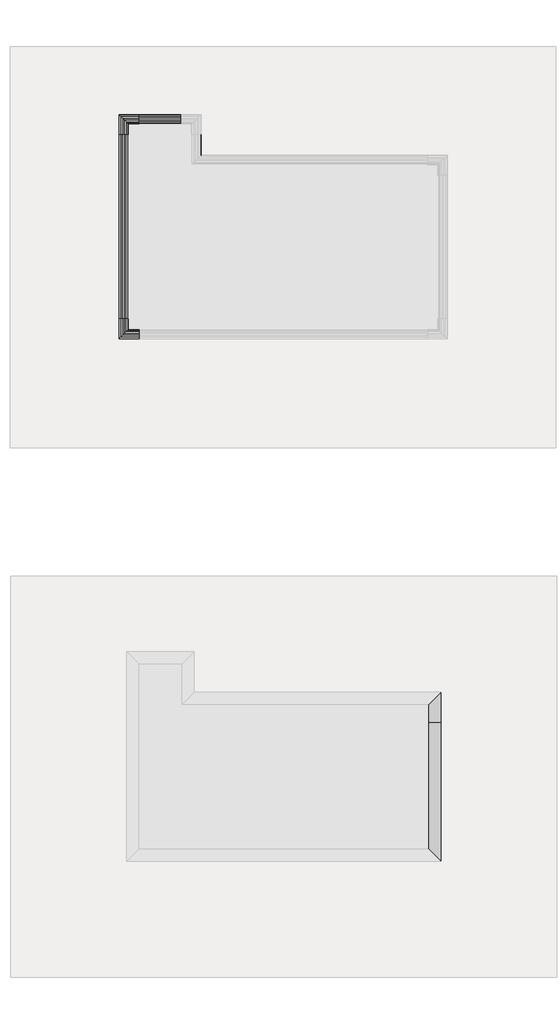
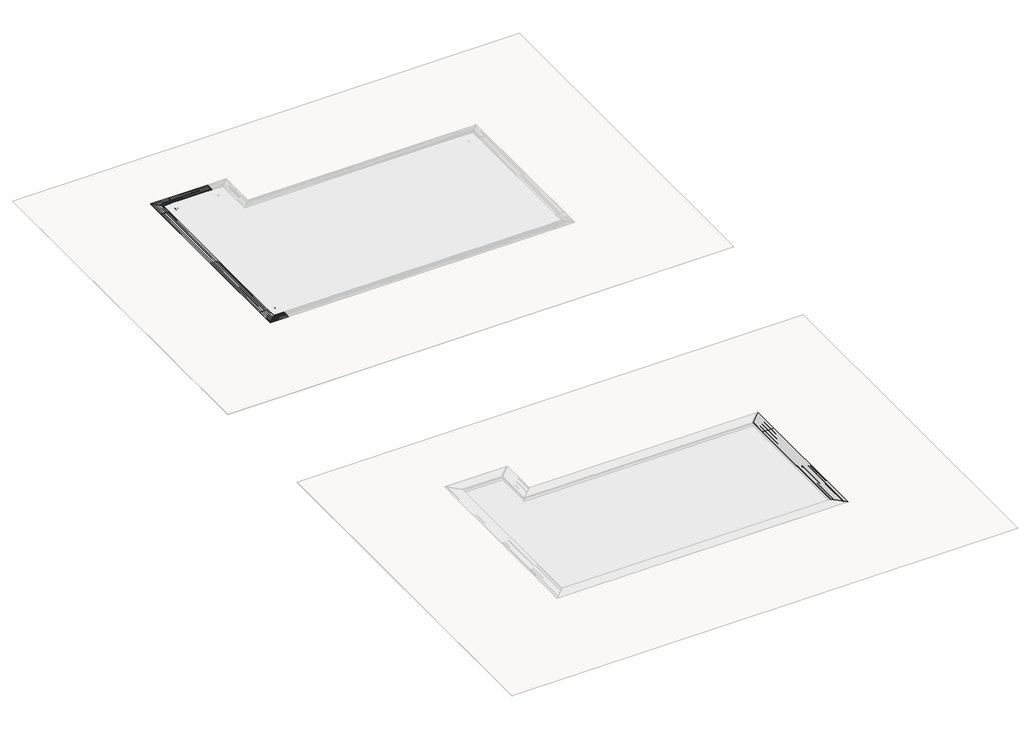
# One storey, part 6 of 8: 21 proxies.
"""IFC4 building model written with IfcOpenShell, lengths in millimetres."""

from ifc_helpers import new_model, si_unit, point, frame, frame_2d, origin, place, context, project, spatial, polyline, circle_curve, trimmed, segment, composite_curve, outline, extrude, faceted_brep, transform, mapped, element, save
from components import roca_polar_33x3cm_006be5aa, roca_polar_33x4cm_fa50347c, roca_polar_33x4cm_158b5dbd, roca_polar_33x4cm_f0a25715, roca_polar_33x4cm_b073b66c, roca_polar_4x4cm_b0f7cce5, roca_polar_angulo_33x33cm_rejilla_24_5x33cm_6b5bcf94

model = new_model("IFC4")

# Units and contexts
model_context = context("Model", 3, world=origin())
ifc_project = project(units=[si_unit("LENGTHUNIT", "METRE", prefix="MILLI")], contexts=[model_context])

# Site, building, storey
site = spatial("IfcSite", under=ifc_project)
building = spatial("IfcBuilding", under=site)
storey = spatial("IfcBuildingStorey", under=building, Name="EXAGRES_Serie ROCA POLAR_Piscinas_ejemplo", Elevation=14000.0)

# Proxies
placement = place(None, origin())
element("IfcBuildingElementProxy", 1, Name="Wall Sweeps", at=placement, inside=storey, context=model_context, shape_type="SweptSolid", body=[
    extrude(outline(polyline([(13800.0, 12731.9202897), (13800.0, 12541.9202897), (14000.0, 12541.9202897), (14000.0, 12511.9202897), (13750.0, 12511.9202897), (13750.0, 12761.9202897), (14000.0, 12761.9202897), (14000.0, 12731.9202897), (13800.0, 12731.9202897)])), frame((0.0, -9603.9185886, 0.0), z_axis=(0.0, 1.0, 0.0), x_axis=(0.0, 0.0, 1.0)), (0.0, 0.0, 1.0), 5072.2),
])
element("IfcBuildingElementProxy", 2, Name="Wall Sweeps", at=placement, inside=storey, context=model_context, shape_type="SweptSolid", body=[
    extrude(outline(composite_curve([segment(polyline([(14015.0, 12561.9202897), (14015.0, 12566.9202897)]), True, "CONTINUOUS"), segment(trimmed(circle_curve(frame_2d((14000.0, 12566.9202897)), 15.0), [point((14015.0, 12566.9202897))], [point((14000.0, 12581.9202897))], True, "CARTESIAN"), True, "CONTINUOUS"), segment(polyline([(14000.0, 12581.9202897), (14000.0, 12641.9202897)]), True, "CONTINUOUS"), segment(trimmed(circle_curve(frame_2d((14000.0, 12656.9202897)), 15.0), [point((14000.0, 12641.9202897))], [point((14015.0, 12656.9202897))], True, "CARTESIAN"), True, "CONTINUOUS"), segment(polyline([(14015.0, 12656.9202897), (14015.0, 12661.9202897)]), True, "CONTINUOUS"), segment(trimmed(circle_curve(frame_2d((14000.0, 12661.9202897)), 15.0), [point((14015.0, 12661.9202897))], [point((14000.0, 12676.9202897))], True, "CARTESIAN"), True, "CONTINUOUS"), segment(polyline([(14000.0, 12676.9202897), (14000.0, 12737.4202897), (14011.0, 12737.4202897)]), True, "CONTINUOUS"), segment(trimmed(circle_curve(frame_2d((14011.0, 12741.1702897)), 3.75), [point((14011.0, 12737.4202897))], [point((14011.0, 12744.9202897))], True, "CARTESIAN"), True, "CONTINUOUS"), segment(polyline([(14011.0, 12744.9202897), (14000.0, 12744.9202897), (14000.0, 12756.9202897), (14015.0, 12756.9202897), (14030.0, 12750.4202897), (14030.0, 12710.9202897), (14019.0, 12711.9202897), (14019.0, 12716.9202897), (14011.0, 12716.9202897), (14011.0, 12696.9202897), (14019.0, 12696.9202897), (14019.0, 12701.9202897), (14030.0, 12702.9202897), (14030.0, 12663.4202897), (14025.0, 12663.4202897), (14025.0, 12655.4202897), (14030.0, 12655.4202897), (14030.0, 12615.9202897), (14019.0, 12616.9202897), (14019.0, 12621.9202897), (14011.0, 12621.9202897), (14011.0, 12601.9202897), (14019.0, 12601.9202897), (14019.0, 12606.9202897), (14030.0, 12607.9202897), (14030.0, 12568.4202897), (14025.0, 12568.4202897), (14025.0, 12560.4202897), (14030.0, 12560.4202897), (14030.0, 12520.9202897), (14019.0, 12520.9202897), (14019.0, 12539.4202897), (14011.0, 12539.4202897), (14011.0, 12516.9202897), (14000.0, 12516.9202897), (14000.0, 12546.9202897)]), True, "CONTINUOUS"), segment(trimmed(circle_curve(frame_2d((14000.0, 12561.9202897)), 15.0), [point((14000.0, 12546.9202897))], [point((14015.0, 12561.9202897))], True, "CARTESIAN"), True, "CONTINUOUS")], self_intersect=False)), frame((0.0, -9603.9185886, 0.0), z_axis=(0.0, 1.0, 0.0), x_axis=(0.0, 0.0, 1.0)), (0.0, 0.0, 1.0), 5072.2),
])
element("IfcBuildingElementProxy", 3, Name="Wall Sweeps", at=placement, inside=storey, context=model_context, shape_type="SweptSolid", body=[
    extrude(outline(polyline([(13546.2592037, 13011.9202897), (14000.0, 13011.9202897), (14000.0, 12761.9202897), (13750.0, 12761.9202897), (13750.0, 12511.9202897), (13644.7108891, 12511.9202897), (13546.2592037, 12811.9202897), (13546.2592037, 13011.9202897)])), frame((0.0, -9603.9185886, 0.0), z_axis=(0.0, 1.0, 0.0), x_axis=(0.0, 0.0, 1.0)), (0.0, 0.0, 1.0), 5072.2),
])
element("IfcBuildingElementProxy", 4, Name="Wall Sweeps", at=placement, inside=storey, context=model_context, shape_type="SweptSolid", body=[
    extrude(outline(polyline([(13800.0, 14551.9202897), (14000.0, 14551.9202897), (14000.0, 14521.9202897), (13750.0, 14521.9202897), (13750.0, 14771.9202897), (14000.0, 14771.9202897), (14000.0, 14741.9202897), (13800.0, 14741.9202897), (13800.0, 14551.9202897)])), frame((0.0, -5603.9185886, 0.0), z_axis=(0.0, 1.0, 0.0), x_axis=(0.0, 0.0, 1.0)), (0.0, 0.0, 1.0), 1072.1988872),
])
element("IfcBuildingElementProxy", 5, Name="Wall Sweeps", at=placement, inside=storey, context=model_context, shape_type="Brep", body=[
    faceted_brep([(14271.9202897, -5597.8185886, 13546.2592037), (14471.9202897, -5397.8185886, 13546.2592037), (14771.9202897, -5097.8185886, 13644.7108891), (14771.9202897, -5097.8185886, 13750.0), (14521.9202897, -5347.8185886, 13750.0), (14521.9202897, -5347.8185886, 14000.0), (14271.9202897, -5597.8185886, 14000.0), (14271.9202897, -4531.7197013, 13546.2592037), (14271.9202897, -4531.7197013, 14000.0), (14521.9202897, -4531.7197013, 14000.0), (14521.9202897, -4531.7197013, 13750.0), (14771.9202897, -4531.7197013, 13750.0), (14771.9202897, -4531.7197013, 13644.7108891), (14471.9202897, -4531.7197013, 13546.2592037), (14271.9202897, -5097.8185886, 14000.0), (14271.9202897, -5127.8185886, 14000.0), (14271.9202897, -5317.8185886, 14000.0), (14271.9202897, -5347.8185886, 14000.0)], [[[0, 1, 2, 3, 4, 5, 6]], [[7, 8, 9, 10, 11, 12, 13]], [[1, 0, 7, 13]], [[2, 1, 13, 12]], [[3, 2, 12, 11]], [[4, 3, 11, 10]], [[5, 4, 10, 9]], [[6, 5, 9, 8, 14, 15, 16, 17]], [[0, 6, 17, 16, 15, 14, 8, 7]]]),
])
element("IfcBuildingElementProxy", 6, Name="Wall Sweeps", at=placement, inside=storey, context=model_context, shape_type="SweptSolid", body=[
    extrude(outline(polyline([(-4197.8185886, 13800.0), (-4007.8185886, 13800.0), (-4007.8185886, 14000.0), (-3977.8185886, 14000.0), (-3977.8185886, 13750.0), (-4227.8185886, 13750.0), (-4227.8185886, 14000.0), (-4197.8185886, 14000.0), (-4197.8185886, 13800.0)])), frame((13065.8202897, 0.0, 0.0), z_axis=(1.0, 0.0, 0.0), x_axis=(0.0, 1.0, 0.0)), (0.0, 0.0, 1.0), 1152.2),
])
element("IfcBuildingElementProxy", 7, Name="Wall Sweeps", at=placement, inside=storey, context=model_context, shape_type="SweptSolid", body=[
    extrude(outline(composite_curve([segment(polyline([(-4027.8185886, 14015.0), (-4032.8185886, 14015.0)]), True, "CONTINUOUS"), segment(trimmed(circle_curve(frame_2d((-4032.8185886, 14000.0)), 15.0), [point((-4032.8185886, 14015.0))], [point((-4047.8185886, 14000.0))], True, "CARTESIAN"), True, "CONTINUOUS"), segment(polyline([(-4047.8185886, 14000.0), (-4107.8185886, 14000.0)]), True, "CONTINUOUS"), segment(trimmed(circle_curve(frame_2d((-4122.8185886, 14000.0)), 15.0), [point((-4107.8185886, 14000.0))], [point((-4122.8185886, 14015.0))], True, "CARTESIAN"), True, "CONTINUOUS"), segment(polyline([(-4122.8185886, 14015.0), (-4127.8185886, 14015.0)]), True, "CONTINUOUS"), segment(trimmed(circle_curve(frame_2d((-4127.8185886, 14000.0)), 15.0), [point((-4127.8185886, 14015.0))], [point((-4142.8185886, 14000.0))], True, "CARTESIAN"), True, "CONTINUOUS"), segment(polyline([(-4142.8185886, 14000.0), (-4203.3185886, 14000.0), (-4203.3185886, 14011.0)]), True, "CONTINUOUS"), segment(trimmed(circle_curve(frame_2d((-4207.0685886, 14011.0)), 3.75), [point((-4203.3185886, 14011.0))], [point((-4210.8185886, 14011.0))], True, "CARTESIAN"), True, "CONTINUOUS"), segment(polyline([(-4210.8185886, 14011.0), (-4210.8185886, 14000.0), (-4222.8185886, 14000.0), (-4222.8185886, 14015.0), (-4216.3185886, 14030.0), (-4176.8185886, 14030.0), (-4177.8185886, 14019.0), (-4182.8185886, 14019.0), (-4182.8185886, 14011.0), (-4162.8185886, 14011.0), (-4162.8185886, 14019.0), (-4167.8185886, 14019.0), (-4168.8185886, 14030.0), (-4129.3185886, 14030.0), (-4129.3185886, 14025.0), (-4121.3185886, 14025.0), (-4121.3185886, 14030.0), (-4081.8185886, 14030.0), (-4082.8185886, 14019.0), (-4087.8185886, 14019.0), (-4087.8185886, 14011.0), (-4067.8185886, 14011.0), (-4067.8185886, 14019.0), (-4072.8185886, 14019.0), (-4073.8185886, 14030.0), (-4034.3185886, 14030.0), (-4034.3185886, 14025.0), (-4026.3185886, 14025.0), (-4026.3185886, 14030.0), (-3986.8185886, 14030.0), (-3986.8185886, 14019.0), (-4005.3185886, 14019.0), (-4005.3185886, 14011.0), (-3982.8185886, 14011.0), (-3982.8185886, 14000.0), (-4012.8185886, 14000.0)]), True, "CONTINUOUS"), segment(trimmed(circle_curve(frame_2d((-4027.8185886, 14000.0)), 15.0), [point((-4012.8185886, 14000.0))], [point((-4027.8185886, 14015.0))], True, "CARTESIAN"), True, "CONTINUOUS")], self_intersect=False)), frame((13065.8202897, 0.0, 0.0), z_axis=(1.0, 0.0, 0.0), x_axis=(0.0, 1.0, 0.0)), (0.0, 0.0, 1.0), 1152.2),
])
element("IfcBuildingElementProxy", 8, Name="Wall Sweeps", at=placement, inside=storey, context=model_context, shape_type="SweptSolid", body=[
    extrude(outline(polyline([(-4477.8185886, 13546.2592037), (-4477.8185886, 14000.0), (-4227.8185886, 14000.0), (-4227.8185886, 13750.0), (-3977.8185886, 13750.0), (-3977.8185886, 13644.7108891), (-4277.8185886, 13546.2592037), (-4477.8185886, 13546.2592037)])), frame((13065.8202897, 0.0, 0.0), z_axis=(1.0, 0.0, 0.0), x_axis=(0.0, 1.0, 0.0)), (0.0, 0.0, 1.0), 1152.2),
])
element("IfcBuildingElementProxy", 9, Name="Wall Sweeps", at=placement, inside=storey, context=model_context, shape_type="Brep", body=[
    faceted_brep([(14579.9426749, -19916.0914606, 13818.74), (14484.9426749, -20011.0914606, 13818.74), (14274.9426749, -20221.0914606, 13818.74), (14274.9426749, -20221.0914606, 14000.0), (14274.9426749, -20221.0914606, 14018.74), (14579.9426749, -19916.0914606, 14018.74), (21379.9426749, -19916.0914606, 13818.74), (21379.9426749, -19916.0914606, 14018.74), (21074.9426749, -20221.0914606, 14018.74), (21074.9426749, -20221.0914606, 14000.0), (21074.9426749, -20221.0914606, 13818.74), (21284.9426749, -20011.0914606, 13818.74)], [[[0, 1, 2, 3, 4, 5]], [[6, 7, 8, 9, 10, 11]], [[4, 3, 2, 10, 9, 8]], [[2, 1, 0, 6, 11, 10]], [[5, 4, 8, 7]], [[0, 5, 7, 6]]]),
])
element("IfcBuildingElementProxy", 10, Name="Wall Sweeps", at=placement, inside=storey, context=model_context, shape_type="Brep", body=[
    faceted_brep([(21072.9426749, -20223.0914606, 14000.0), (21059.9426749, -20236.0914606, 14000.0), (21059.9426749, -20236.0914606, 14033.0), (21389.9426749, -19906.0914606, 14033.0), (21389.9426749, -19906.0914606, 14021.0), (21383.9426749, -19912.0914606, 14021.0), (21383.9426749, -19912.0914606, 14022.0), (21379.9426749, -19916.0914606, 14022.0), (21379.9426749, -19916.0914606, 14021.0), (21373.9426749, -19922.0914606, 14021.0), (21373.9426749, -19922.0914606, 14022.0), (21369.9426749, -19926.0914606, 14022.0), (21369.9426749, -19926.0914606, 14021.0), (21363.9426749, -19932.0914606, 14021.0), (21363.9426749, -19932.0914606, 14022.0), (21359.9426749, -19936.0914606, 14022.0), (21359.9426749, -19936.0914606, 14021.0), (21353.9426749, -19942.0914606, 14021.0), (21353.9426749, -19942.0914606, 14022.0), (21349.9426749, -19946.0914606, 14022.0), (21349.9426749, -19946.0914606, 14021.0), (21343.9426749, -19952.0914606, 14021.0), (21343.9426749, -19952.0914606, 14022.0), (21339.9426749, -19956.0914606, 14022.0), (21339.9426749, -19956.0914606, 14021.0), (21333.9426749, -19962.0914606, 14021.0), (21333.9426749, -19962.0914606, 14022.0), (21329.9426749, -19966.0914606, 14022.0), (21329.9426749, -19966.0914606, 14021.0), (21323.9426749, -19972.0914606, 14021.0), (21323.9426749, -19972.0914606, 14022.0), (21319.9426749, -19976.0914606, 14022.0), (21319.9426749, -19976.0914606, 14021.0), (21313.9426749, -19982.0914606, 14021.0), (21313.9426749, -19982.0914606, 14022.0), (21309.9426749, -19986.0914606, 14022.0), (21309.9426749, -19986.0914606, 14021.0), (21303.9426749, -19992.0914606, 14021.0), (21303.9426749, -19992.0914606, 14022.0), (21299.9426749, -19996.0914606, 14022.0), (21299.9426749, -19996.0914606, 14021.0), (21293.9426749, -20002.0914606, 14021.0), (21293.9426749, -20002.0914606, 14022.0), (21289.9426749, -20006.0914606, 14022.0), (21289.9426749, -20006.0914606, 14021.0), (21283.9426749, -20012.0914606, 14021.0), (21283.9426749, -20012.0914606, 14022.0), (21279.9426749, -20016.0914606, 14022.0), (21279.9426749, -20016.0914606, 14021.0), (21273.9426749, -20022.0914606, 14021.0), (21273.9426749, -20022.0914606, 14022.0), (21269.9426749, -20026.0914606, 14022.0), (21269.9426749, -20026.0914606, 14021.0), (21263.9426749, -20032.0914606, 14021.0), (21263.9426749, -20032.0914606, 14022.0), (21259.9426749, -20036.0914606, 14022.0), (21259.9426749, -20036.0914606, 14021.0), (21253.9426749, -20042.0914606, 14021.0), (21253.9426749, -20042.0914606, 14022.0), (21249.9426749, -20046.0914606, 14022.0), (21249.9426749, -20046.0914606, 14021.0), (21243.9426749, -20052.0914606, 14021.0), (21243.9426749, -20052.0914606, 14022.0), (21239.9426749, -20056.0914606, 14022.0), (21239.9426749, -20056.0914606, 14021.0), (21233.9426749, -20062.0914606, 14021.0), (21233.9426749, -20062.0914606, 14022.0), (21229.9426749, -20066.0914606, 14022.0), (21229.9426749, -20066.0914606, 14021.0), (21223.9426749, -20072.0914606, 14021.0), (21223.9426749, -20072.0914606, 14022.0), (21219.9426749, -20076.0914606, 14022.0), (21219.9426749, -20076.0914606, 14021.0), (21213.9426749, -20082.0914606, 14021.0), (21213.9426749, -20082.0914606, 14022.0), (21209.9426749, -20086.0914606, 14022.0), (21209.9426749, -20086.0914606, 14021.0), (21203.9426749, -20092.0914606, 14021.0), (21203.9426749, -20092.0914606, 14022.0), (21199.9426749, -20096.0914606, 14022.0), (21199.9426749, -20096.0914606, 14021.0), (21193.9426749, -20102.0914606, 14021.0), (21193.9426749, -20102.0914606, 14022.0), (21189.9426749, -20106.0914606, 14022.0), (21189.9426749, -20106.0914606, 14021.0), (21183.9426749, -20112.0914606, 14021.0), (21183.9426749, -20112.0914606, 14022.0), (21179.9426749, -20116.0914606, 14022.0), (21179.9426749, -20116.0914606, 14021.0), (21173.9426749, -20122.0914606, 14021.0), (21173.9426749, -20122.0914606, 14022.0), (21169.9426749, -20126.0914606, 14022.0), (21169.9426749, -20126.0914606, 14021.0), (21163.9426749, -20132.0914606, 14021.0), (21163.9426749, -20132.0914606, 14022.0), (21159.9426749, -20136.0914606, 14022.0), (21159.9426749, -20136.0914606, 14021.0), (21153.9426749, -20142.0914606, 14021.0), (21153.9426749, -20142.0914606, 14022.0), (21149.9426749, -20146.0914606, 14022.0), (21149.9426749, -20146.0914606, 14021.0), (21143.9426749, -20152.0914606, 14021.0), (21143.9426749, -20152.0914606, 14022.0), (21139.9426749, -20156.0914606, 14022.0), (21139.9426749, -20156.0914606, 14021.0), (21133.9426749, -20162.0914606, 14021.0), (21133.9426749, -20162.0914606, 14022.0), (21129.9426749, -20166.0914606, 14022.0), (21129.9426749, -20166.0914606, 14021.0), (21123.9426749, -20172.0914606, 14021.0), (21123.9426749, -20172.0914606, 14022.0), (21119.9426749, -20176.0914606, 14022.0), (21119.9426749, -20176.0914606, 14021.0), (21113.9426749, -20182.0914606, 14021.0), (21113.9426749, -20182.0914606, 14022.0), (21109.9426749, -20186.0914606, 14022.0), (21109.9426749, -20186.0914606, 14021.0), (21103.9426749, -20192.0914606, 14021.0), (21103.9426749, -20192.0914606, 14022.0), (21099.9426749, -20196.0914606, 14022.0), (21099.9426749, -20196.0914606, 14021.0), (21093.9426749, -20202.0914606, 14021.0), (21093.9426749, -20202.0914606, 14022.0), (21089.9426749, -20206.0914606, 14022.0), (21089.9426749, -20206.0914606, 14021.0), (21083.9426749, -20212.0914606, 14021.0), (21083.9426749, -20212.0914606, 14022.0), (21079.9426749, -20216.0914606, 14022.0), (21079.9426749, -20216.0914606, 14021.0), (21072.9426749, -20223.0914606, 14021.0), (21072.9426749, -20223.0914606, 14014.0), (21071.9426749, -20224.0914606, 14014.0), (21071.9426749, -20224.0914606, 14008.0), (21072.9426749, -20223.0914606, 14008.0), (21072.9426749, -20743.5914606, 14000.0), (21072.9426749, -20743.5914606, 14008.0), (21071.9426749, -20743.5914606, 14008.0), (21071.9426749, -20743.5914606, 14014.0), (21072.9426749, -20743.5914606, 14014.0), (21072.9426749, -20743.5914606, 14021.0), (21079.9426749, -20743.5914606, 14021.0), (21079.9426749, -20743.5914606, 14022.0), (21083.9426749, -20743.5914606, 14022.0), (21083.9426749, -20743.5914606, 14021.0), (21089.9426749, -20743.5914606, 14021.0), (21089.9426749, -20743.5914606, 14022.0), (21093.9426749, -20743.5914606, 14022.0), (21093.9426749, -20743.5914606, 14021.0), (21099.9426749, -20743.5914606, 14021.0), (21099.9426749, -20743.5914606, 14022.0), (21103.9426749, -20743.5914606, 14022.0), (21103.9426749, -20743.5914606, 14021.0), (21109.9426749, -20743.5914606, 14021.0), (21109.9426749, -20743.5914606, 14022.0), (21113.9426749, -20743.5914606, 14022.0), (21113.9426749, -20743.5914606, 14021.0), (21119.9426749, -20743.5914606, 14021.0), (21119.9426749, -20743.5914606, 14022.0), (21123.9426749, -20743.5914606, 14022.0), (21123.9426749, -20743.5914606, 14021.0), (21129.9426749, -20743.5914606, 14021.0), (21129.9426749, -20743.5914606, 14022.0), (21133.9426749, -20743.5914606, 14022.0), (21133.9426749, -20743.5914606, 14021.0), (21139.9426749, -20743.5914606, 14021.0), (21139.9426749, -20743.5914606, 14022.0), (21143.9426749, -20743.5914606, 14022.0), (21143.9426749, -20743.5914606, 14021.0), (21149.9426749, -20743.5914606, 14021.0), (21149.9426749, -20743.5914606, 14022.0), (21153.9426749, -20743.5914606, 14022.0), (21153.9426749, -20743.5914606, 14021.0), (21159.9426749, -20743.5914606, 14021.0), (21159.9426749, -20743.5914606, 14022.0), (21163.9426749, -20743.5914606, 14022.0), (21163.9426749, -20743.5914606, 14021.0), (21169.9426749, -20743.5914606, 14021.0), (21169.9426749, -20743.5914606, 14022.0), (21173.9426749, -20743.5914606, 14022.0), (21173.9426749, -20743.5914606, 14021.0), (21179.9426749, -20743.5914606, 14021.0), (21179.9426749, -20743.5914606, 14022.0), (21183.9426749, -20743.5914606, 14022.0), (21183.9426749, -20743.5914606, 14021.0), (21189.9426749, -20743.5914606, 14021.0), (21189.9426749, -20743.5914606, 14022.0), (21193.9426749, -20743.5914606, 14022.0), (21193.9426749, -20743.5914606, 14021.0), (21199.9426749, -20743.5914606, 14021.0), (21199.9426749, -20743.5914606, 14022.0), (21203.9426749, -20743.5914606, 14022.0), (21203.9426749, -20743.5914606, 14021.0), (21209.9426749, -20743.5914606, 14021.0), (21209.9426749, -20743.5914606, 14022.0), (21213.9426749, -20743.5914606, 14022.0), (21213.9426749, -20743.5914606, 14021.0), (21219.9426749, -20743.5914606, 14021.0), (21219.9426749, -20743.5914606, 14022.0), (21223.9426749, -20743.5914606, 14022.0), (21223.9426749, -20743.5914606, 14021.0), (21229.9426749, -20743.5914606, 14021.0), (21229.9426749, -20743.5914606, 14022.0), (21233.9426749, -20743.5914606, 14022.0), (21233.9426749, -20743.5914606, 14021.0), (21239.9426749, -20743.5914606, 14021.0), (21239.9426749, -20743.5914606, 14022.0), (21243.9426749, -20743.5914606, 14022.0), (21243.9426749, -20743.5914606, 14021.0), (21249.9426749, -20743.5914606, 14021.0), (21249.9426749, -20743.5914606, 14022.0), (21253.9426749, -20743.5914606, 14022.0), (21253.9426749, -20743.5914606, 14021.0), (21259.9426749, -20743.5914606, 14021.0), (21259.9426749, -20743.5914606, 14022.0), (21263.9426749, -20743.5914606, 14022.0), (21263.9426749, -20743.5914606, 14021.0), (21269.9426749, -20743.5914606, 14021.0), (21269.9426749, -20743.5914606, 14022.0), (21273.9426749, -20743.5914606, 14022.0), (21273.9426749, -20743.5914606, 14021.0), (21279.9426749, -20743.5914606, 14021.0), (21279.9426749, -20743.5914606, 14022.0), (21283.9426749, -20743.5914606, 14022.0), (21283.9426749, -20743.5914606, 14021.0), (21289.9426749, -20743.5914606, 14021.0), (21289.9426749, -20743.5914606, 14022.0), (21293.9426749, -20743.5914606, 14022.0), (21293.9426749, -20743.5914606, 14021.0), (21299.9426749, -20743.5914606, 14021.0), (21299.9426749, -20743.5914606, 14022.0), (21303.9426749, -20743.5914606, 14022.0), (21303.9426749, -20743.5914606, 14021.0), (21309.9426749, -20743.5914606, 14021.0), (21309.9426749, -20743.5914606, 14022.0), (21313.9426749, -20743.5914606, 14022.0), (21313.9426749, -20743.5914606, 14021.0), (21319.9426749, -20743.5914606, 14021.0), (21319.9426749, -20743.5914606, 14022.0), (21323.9426749, -20743.5914606, 14022.0), (21323.9426749, -20743.5914606, 14021.0), (21329.9426749, -20743.5914606, 14021.0), (21329.9426749, -20743.5914606, 14022.0), (21333.9426749, -20743.5914606, 14022.0), (21333.9426749, -20743.5914606, 14021.0), (21339.9426749, -20743.5914606, 14021.0), (21339.9426749, -20743.5914606, 14022.0), (21343.9426749, -20743.5914606, 14022.0), (21343.9426749, -20743.5914606, 14021.0), (21349.9426749, -20743.5914606, 14021.0), (21349.9426749, -20743.5914606, 14022.0), (21353.9426749, -20743.5914606, 14022.0), (21353.9426749, -20743.5914606, 14021.0), (21359.9426749, -20743.5914606, 14021.0), (21359.9426749, -20743.5914606, 14022.0), (21363.9426749, -20743.5914606, 14022.0), (21363.9426749, -20743.5914606, 14021.0), (21369.9426749, -20743.5914606, 14021.0), (21369.9426749, -20743.5914606, 14022.0), (21373.9426749, -20743.5914606, 14022.0), (21373.9426749, -20743.5914606, 14021.0), (21379.9426749, -20743.5914606, 14021.0), (21379.9426749, -20743.5914606, 14022.0), (21383.9426749, -20743.5914606, 14022.0), (21383.9426749, -20743.5914606, 14021.0), (21389.9426749, -20743.5914606, 14021.0), (21389.9426749, -20743.5914606, 14033.0), (21059.9426749, -20743.5914606, 14033.0), (21059.9426749, -20743.5914606, 14000.0)], [[[0, 1, 2, 3, 4, 5, 6, 7, 8, 9, 10, 11, 12, 13, 14, 15, 16, 17, 18, 19, 20, 21, 22, 23, 24, 25, 26, 27, 28, 29, 30, 31, 32, 33, 34, 35, 36, 37, 38, 39, 40, 41, 42, 43, 44, 45, 46, 47, 48, 49, 50, 51, 52, 53, 54, 55, 56, 57, 58, 59, 60, 61, 62, 63, 64, 65, 66, 67, 68, 69, 70, 71, 72, 73, 74, 75, 76, 77, 78, 79, 80, 81, 82, 83, 84, 85, 86, 87, 88, 89, 90, 91, 92, 93, 94, 95, 96, 97, 98, 99, 100, 101, 102, 103, 104, 105, 106, 107, 108, 109, 110, 111, 112, 113, 114, 115, 116, 117, 118, 119, 120, 121, 122, 123, 124, 125, 126, 127, 128, 129, 130, 131, 132, 133]], [[134, 135, 136, 137, 138, 139, 140, 141, 142, 143, 144, 145, 146, 147, 148, 149, 150, 151, 152, 153, 154, 155, 156, 157, 158, 159, 160, 161, 162, 163, 164, 165, 166, 167, 168, 169, 170, 171, 172, 173, 174, 175, 176, 177, 178, 179, 180, 181, 182, 183, 184, 185, 186, 187, 188, 189, 190, 191, 192, 193, 194, 195, 196, 197, 198, 199, 200, 201, 202, 203, 204, 205, 206, 207, 208, 209, 210, 211, 212, 213, 214, 215, 216, 217, 218, 219, 220, 221, 222, 223, 224, 225, 226, 227, 228, 229, 230, 231, 232, 233, 234, 235, 236, 237, 238, 239, 240, 241, 242, 243, 244, 245, 246, 247, 248, 249, 250, 251, 252, 253, 254, 255, 256, 257, 258, 259, 260, 261, 262, 263, 264, 265, 266, 267]], [[1, 0, 134, 267]], [[2, 1, 267, 266]], [[3, 2, 266, 265]], [[4, 3, 265, 264]], [[5, 4, 264, 263]], [[6, 5, 263, 262]], [[7, 6, 262, 261]], [[8, 7, 261, 260]], [[9, 8, 260, 259]], [[10, 9, 259, 258]], [[11, 10, 258, 257]], [[12, 11, 257, 256]], [[13, 12, 256, 255]], [[14, 13, 255, 254]], [[15, 14, 254, 253]], [[16, 15, 253, 252]], [[17, 16, 252, 251]], [[18, 17, 251, 250]], [[19, 18, 250, 249]], [[20, 19, 249, 248]], [[21, 20, 248, 247]], [[22, 21, 247, 246]], [[23, 22, 246, 245]], [[24, 23, 245, 244]], [[25, 24, 244, 243]], [[26, 25, 243, 242]], [[27, 26, 242, 241]], [[28, 27, 241, 240]], [[29, 28, 240, 239]], [[30, 29, 239, 238]], [[31, 30, 238, 237]], [[32, 31, 237, 236]], [[33, 32, 236, 235]], [[34, 33, 235, 234]], [[35, 34, 234, 233]], [[36, 35, 233, 232]], [[37, 36, 232, 231]], [[38, 37, 231, 230]], [[39, 38, 230, 229]], [[40, 39, 229, 228]], [[41, 40, 228, 227]], [[42, 41, 227, 226]], [[43, 42, 226, 225]], [[44, 43, 225, 224]], [[45, 44, 224, 223]], [[46, 45, 223, 222]], [[47, 46, 222, 221]], [[48, 47, 221, 220]], [[49, 48, 220, 219]], [[50, 49, 219, 218]], [[51, 50, 218, 217]], [[52, 51, 217, 216]], [[53, 52, 216, 215]], [[54, 53, 215, 214]], [[55, 54, 214, 213]], [[56, 55, 213, 212]], [[57, 56, 212, 211]], [[58, 57, 211, 210]], [[59, 58, 210, 209]], [[60, 59, 209, 208]], [[61, 60, 208, 207]], [[62, 61, 207, 206]], [[63, 62, 206, 205]], [[64, 63, 205, 204]], [[65, 64, 204, 203]], [[66, 65, 203, 202]], [[67, 66, 202, 201]], [[68, 67, 201, 200]], [[69, 68, 200, 199]], [[70, 69, 199, 198]], [[71, 70, 198, 197]], [[72, 71, 197, 196]], [[73, 72, 196, 195]], [[74, 73, 195, 194]], [[75, 74, 194, 193]], [[76, 75, 193, 192]], [[77, 76, 192, 191]], [[78, 77, 191, 190]], [[79, 78, 190, 189]], [[80, 79, 189, 188]], [[81, 80, 188, 187]], [[82, 81, 187, 186]], [[83, 82, 186, 185]], [[84, 83, 185, 184]], [[85, 84, 184, 183]], [[86, 85, 183, 182]], [[87, 86, 182, 181]], [[88, 87, 181, 180]], [[89, 88, 180, 179]], [[90, 89, 179, 178]], [[91, 90, 178, 177]], [[92, 91, 177, 176]], [[93, 92, 176, 175]], [[94, 93, 175, 174]], [[95, 94, 174, 173]], [[96, 95, 173, 172]], [[97, 96, 172, 171]], [[98, 97, 171, 170]], [[99, 98, 170, 169]], [[100, 99, 169, 168]], [[101, 100, 168, 167]], [[102, 101, 167, 166]], [[103, 102, 166, 165]], [[104, 103, 165, 164]], [[105, 104, 164, 163]], [[106, 105, 163, 162]], [[107, 106, 162, 161]], [[108, 107, 161, 160]], [[109, 108, 160, 159]], [[110, 109, 159, 158]], [[111, 110, 158, 157]], [[112, 111, 157, 156]], [[113, 112, 156, 155]], [[114, 113, 155, 154]], [[115, 114, 154, 153]], [[116, 115, 153, 152]], [[117, 116, 152, 151]], [[118, 117, 151, 150]], [[119, 118, 150, 149]], [[120, 119, 149, 148]], [[121, 120, 148, 147]], [[122, 121, 147, 146]], [[123, 122, 146, 145]], [[124, 123, 145, 144]], [[125, 124, 144, 143]], [[126, 125, 143, 142]], [[127, 126, 142, 141]], [[128, 127, 141, 140]], [[129, 128, 140, 139]], [[130, 129, 139, 138]], [[131, 130, 138, 137]], [[132, 131, 137, 136]], [[133, 132, 136, 135]], [[0, 133, 135, 134]]]),
])
element("IfcBuildingElementProxy", 11, Name="Wall Sweeps", at=placement, inside=storey, context=model_context, shape_type="Brep", body=[
    faceted_brep([(21379.9426749, -19916.0914606, 13818.74), (21284.9426749, -20011.0914606, 13818.74), (21074.9426749, -20221.0914606, 13818.74), (21074.9426749, -20221.0914606, 14000.0), (21074.9426749, -20221.0914606, 14018.74), (21379.9426749, -19916.0914606, 14018.74), (21379.9426749, -20743.5914606, 13818.74), (21379.9426749, -20743.5914606, 14018.74), (21074.9426749, -20743.5914606, 14018.74), (21074.9426749, -20743.5914606, 14000.0), (21074.9426749, -20743.5914606, 13818.74), (21284.9426749, -20743.5914606, 13818.74)], [[[0, 1, 2, 3, 4, 5]], [[6, 7, 8, 9, 10, 11]], [[4, 3, 2, 10, 9, 8]], [[2, 1, 0, 6, 11, 10]], [[5, 4, 8, 7]], [[0, 5, 7, 6]]]),
])
element("IfcBuildingElementProxy", 12, Name="Wall Sweeps", at=placement, inside=storey, context=model_context, shape_type="Brep", body=[
    faceted_brep([(21072.9426749, -20743.5914606, 14000.0), (21059.9426749, -20743.5914606, 14000.0), (21059.9426749, -20743.5914606, 14033.0), (21389.9426749, -20743.5914606, 14033.0), (21389.9426749, -20743.5914606, 14021.0), (21383.9426749, -20743.5914606, 14021.0), (21383.9426749, -20743.5914606, 14022.0), (21379.9426749, -20743.5914606, 14022.0), (21379.9426749, -20743.5914606, 14021.0), (21373.9426749, -20743.5914606, 14021.0), (21373.9426749, -20743.5914606, 14022.0), (21369.9426749, -20743.5914606, 14022.0), (21369.9426749, -20743.5914606, 14021.0), (21363.9426749, -20743.5914606, 14021.0), (21363.9426749, -20743.5914606, 14022.0), (21359.9426749, -20743.5914606, 14022.0), (21359.9426749, -20743.5914606, 14021.0), (21353.9426749, -20743.5914606, 14021.0), (21353.9426749, -20743.5914606, 14022.0), (21349.9426749, -20743.5914606, 14022.0), (21349.9426749, -20743.5914606, 14021.0), (21343.9426749, -20743.5914606, 14021.0), (21343.9426749, -20743.5914606, 14022.0), (21339.9426749, -20743.5914606, 14022.0), (21339.9426749, -20743.5914606, 14021.0), (21333.9426749, -20743.5914606, 14021.0), (21333.9426749, -20743.5914606, 14022.0), (21329.9426749, -20743.5914606, 14022.0), (21329.9426749, -20743.5914606, 14021.0), (21323.9426749, -20743.5914606, 14021.0), (21323.9426749, -20743.5914606, 14022.0), (21319.9426749, -20743.5914606, 14022.0), (21319.9426749, -20743.5914606, 14021.0), (21313.9426749, -20743.5914606, 14021.0), (21313.9426749, -20743.5914606, 14022.0), (21309.9426749, -20743.5914606, 14022.0), (21309.9426749, -20743.5914606, 14021.0), (21303.9426749, -20743.5914606, 14021.0), (21303.9426749, -20743.5914606, 14022.0), (21299.9426749, -20743.5914606, 14022.0), (21299.9426749, -20743.5914606, 14021.0), (21293.9426749, -20743.5914606, 14021.0), (21293.9426749, -20743.5914606, 14022.0), (21289.9426749, -20743.5914606, 14022.0), (21289.9426749, -20743.5914606, 14021.0), (21283.9426749, -20743.5914606, 14021.0), (21283.9426749, -20743.5914606, 14022.0), (21279.9426749, -20743.5914606, 14022.0), (21279.9426749, -20743.5914606, 14021.0), (21273.9426749, -20743.5914606, 14021.0), (21273.9426749, -20743.5914606, 14022.0), (21269.9426749, -20743.5914606, 14022.0), (21269.9426749, -20743.5914606, 14021.0), (21263.9426749, -20743.5914606, 14021.0), (21263.9426749, -20743.5914606, 14022.0), (21259.9426749, -20743.5914606, 14022.0), (21259.9426749, -20743.5914606, 14021.0), (21253.9426749, -20743.5914606, 14021.0), (21253.9426749, -20743.5914606, 14022.0), (21249.9426749, -20743.5914606, 14022.0), (21249.9426749, -20743.5914606, 14021.0), (21243.9426749, -20743.5914606, 14021.0), (21243.9426749, -20743.5914606, 14022.0), (21239.9426749, -20743.5914606, 14022.0), (21239.9426749, -20743.5914606, 14021.0), (21233.9426749, -20743.5914606, 14021.0), (21233.9426749, -20743.5914606, 14022.0), (21229.9426749, -20743.5914606, 14022.0), (21229.9426749, -20743.5914606, 14021.0), (21223.9426749, -20743.5914606, 14021.0), (21223.9426749, -20743.5914606, 14022.0), (21219.9426749, -20743.5914606, 14022.0), (21219.9426749, -20743.5914606, 14021.0), (21213.9426749, -20743.5914606, 14021.0), (21213.9426749, -20743.5914606, 14022.0), (21209.9426749, -20743.5914606, 14022.0), (21209.9426749, -20743.5914606, 14021.0), (21203.9426749, -20743.5914606, 14021.0), (21203.9426749, -20743.5914606, 14022.0), (21199.9426749, -20743.5914606, 14022.0), (21199.9426749, -20743.5914606, 14021.0), (21193.9426749, -20743.5914606, 14021.0), (21193.9426749, -20743.5914606, 14022.0), (21189.9426749, -20743.5914606, 14022.0), (21189.9426749, -20743.5914606, 14021.0), (21183.9426749, -20743.5914606, 14021.0), (21183.9426749, -20743.5914606, 14022.0), (21179.9426749, -20743.5914606, 14022.0), (21179.9426749, -20743.5914606, 14021.0), (21173.9426749, -20743.5914606, 14021.0), (21173.9426749, -20743.5914606, 14022.0), (21169.9426749, -20743.5914606, 14022.0), (21169.9426749, -20743.5914606, 14021.0), (21163.9426749, -20743.5914606, 14021.0), (21163.9426749, -20743.5914606, 14022.0), (21159.9426749, -20743.5914606, 14022.0), (21159.9426749, -20743.5914606, 14021.0), (21153.9426749, -20743.5914606, 14021.0), (21153.9426749, -20743.5914606, 14022.0), (21149.9426749, -20743.5914606, 14022.0), (21149.9426749, -20743.5914606, 14021.0), (21143.9426749, -20743.5914606, 14021.0), (21143.9426749, -20743.5914606, 14022.0), (21139.9426749, -20743.5914606, 14022.0), (21139.9426749, -20743.5914606, 14021.0), (21133.9426749, -20743.5914606, 14021.0), (21133.9426749, -20743.5914606, 14022.0), (21129.9426749, -20743.5914606, 14022.0), (21129.9426749, -20743.5914606, 14021.0), (21123.9426749, -20743.5914606, 14021.0), (21123.9426749, -20743.5914606, 14022.0), (21119.9426749, -20743.5914606, 14022.0), (21119.9426749, -20743.5914606, 14021.0), (21113.9426749, -20743.5914606, 14021.0), (21113.9426749, -20743.5914606, 14022.0), (21109.9426749, -20743.5914606, 14022.0), (21109.9426749, -20743.5914606, 14021.0), (21103.9426749, -20743.5914606, 14021.0), (21103.9426749, -20743.5914606, 14022.0), (21099.9426749, -20743.5914606, 14022.0), (21099.9426749, -20743.5914606, 14021.0), (21093.9426749, -20743.5914606, 14021.0), (21093.9426749, -20743.5914606, 14022.0), (21089.9426749, -20743.5914606, 14022.0), (21089.9426749, -20743.5914606, 14021.0), (21083.9426749, -20743.5914606, 14021.0), (21083.9426749, -20743.5914606, 14022.0), (21079.9426749, -20743.5914606, 14022.0), (21079.9426749, -20743.5914606, 14021.0), (21072.9426749, -20743.5914606, 14021.0), (21072.9426749, -20743.5914606, 14014.0), (21071.9426749, -20743.5914606, 14014.0), (21071.9426749, -20743.5914606, 14008.0), (21072.9426749, -20743.5914606, 14008.0), (21072.9426749, -24249.0914606, 14000.0), (21072.9426749, -24249.0914606, 14008.0), (21071.9426749, -24248.0914606, 14008.0), (21071.9426749, -24248.0914606, 14014.0), (21072.9426749, -24249.0914606, 14014.0), (21072.9426749, -24249.0914606, 14021.0), (21079.9426749, -24256.0914606, 14021.0), (21079.9426749, -24256.0914606, 14022.0), (21083.9426749, -24260.0914606, 14022.0), (21083.9426749, -24260.0914606, 14021.0), (21089.9426749, -24266.0914606, 14021.0), (21089.9426749, -24266.0914606, 14022.0), (21093.9426749, -24270.0914606, 14022.0), (21093.9426749, -24270.0914606, 14021.0), (21099.9426749, -24276.0914606, 14021.0), (21099.9426749, -24276.0914606, 14022.0), (21103.9426749, -24280.0914606, 14022.0), (21103.9426749, -24280.0914606, 14021.0), (21109.9426749, -24286.0914606, 14021.0), (21109.9426749, -24286.0914606, 14022.0), (21113.9426749, -24290.0914606, 14022.0), (21113.9426749, -24290.0914606, 14021.0), (21119.9426749, -24296.0914606, 14021.0), (21119.9426749, -24296.0914606, 14022.0), (21123.9426749, -24300.0914606, 14022.0), (21123.9426749, -24300.0914606, 14021.0), (21129.9426749, -24306.0914606, 14021.0), (21129.9426749, -24306.0914606, 14022.0), (21133.9426749, -24310.0914606, 14022.0), (21133.9426749, -24310.0914606, 14021.0), (21139.9426749, -24316.0914606, 14021.0), (21139.9426749, -24316.0914606, 14022.0), (21143.9426749, -24320.0914606, 14022.0), (21143.9426749, -24320.0914606, 14021.0), (21149.9426749, -24326.0914606, 14021.0), (21149.9426749, -24326.0914606, 14022.0), (21153.9426749, -24330.0914606, 14022.0), (21153.9426749, -24330.0914606, 14021.0), (21159.9426749, -24336.0914606, 14021.0), (21159.9426749, -24336.0914606, 14022.0), (21163.9426749, -24340.0914606, 14022.0), (21163.9426749, -24340.0914606, 14021.0), (21169.9426749, -24346.0914606, 14021.0), (21169.9426749, -24346.0914606, 14022.0), (21173.9426749, -24350.0914606, 14022.0), (21173.9426749, -24350.0914606, 14021.0), (21179.9426749, -24356.0914606, 14021.0), (21179.9426749, -24356.0914606, 14022.0), (21183.9426749, -24360.0914606, 14022.0), (21183.9426749, -24360.0914606, 14021.0), (21189.9426749, -24366.0914606, 14021.0), (21189.9426749, -24366.0914606, 14022.0), (21193.9426749, -24370.0914606, 14022.0), (21193.9426749, -24370.0914606, 14021.0), (21199.9426749, -24376.0914606, 14021.0), (21199.9426749, -24376.0914606, 14022.0), (21203.9426749, -24380.0914606, 14022.0), (21203.9426749, -24380.0914606, 14021.0), (21209.9426749, -24386.0914606, 14021.0), (21209.9426749, -24386.0914606, 14022.0), (21213.9426749, -24390.0914606, 14022.0), (21213.9426749, -24390.0914606, 14021.0), (21219.9426749, -24396.0914606, 14021.0), (21219.9426749, -24396.0914606, 14022.0), (21223.9426749, -24400.0914606, 14022.0), (21223.9426749, -24400.0914606, 14021.0), (21229.9426749, -24406.0914606, 14021.0), (21229.9426749, -24406.0914606, 14022.0), (21233.9426749, -24410.0914606, 14022.0), (21233.9426749, -24410.0914606, 14021.0), (21239.9426749, -24416.0914606, 14021.0), (21239.9426749, -24416.0914606, 14022.0), (21243.9426749, -24420.0914606, 14022.0), (21243.9426749, -24420.0914606, 14021.0), (21249.9426749, -24426.0914606, 14021.0), (21249.9426749, -24426.0914606, 14022.0), (21253.9426749, -24430.0914606, 14022.0), (21253.9426749, -24430.0914606, 14021.0), (21259.9426749, -24436.0914606, 14021.0), (21259.9426749, -24436.0914606, 14022.0), (21263.9426749, -24440.0914606, 14022.0), (21263.9426749, -24440.0914606, 14021.0), (21269.9426749, -24446.0914606, 14021.0), (21269.9426749, -24446.0914606, 14022.0), (21273.9426749, -24450.0914606, 14022.0), (21273.9426749, -24450.0914606, 14021.0), (21279.9426749, -24456.0914606, 14021.0), (21279.9426749, -24456.0914606, 14022.0), (21283.9426749, -24460.0914606, 14022.0), (21283.9426749, -24460.0914606, 14021.0), (21289.9426749, -24466.0914606, 14021.0), (21289.9426749, -24466.0914606, 14022.0), (21293.9426749, -24470.0914606, 14022.0), (21293.9426749, -24470.0914606, 14021.0), (21299.9426749, -24476.0914606, 14021.0), (21299.9426749, -24476.0914606, 14022.0), (21303.9426749, -24480.0914606, 14022.0), (21303.9426749, -24480.0914606, 14021.0), (21309.9426749, -24486.0914606, 14021.0), (21309.9426749, -24486.0914606, 14022.0), (21313.9426749, -24490.0914606, 14022.0), (21313.9426749, -24490.0914606, 14021.0), (21319.9426749, -24496.0914606, 14021.0), (21319.9426749, -24496.0914606, 14022.0), (21323.9426749, -24500.0914606, 14022.0), (21323.9426749, -24500.0914606, 14021.0), (21329.9426749, -24506.0914606, 14021.0), (21329.9426749, -24506.0914606, 14022.0), (21333.9426749, -24510.0914606, 14022.0), (21333.9426749, -24510.0914606, 14021.0), (21339.9426749, -24516.0914606, 14021.0), (21339.9426749, -24516.0914606, 14022.0), (21343.9426749, -24520.0914606, 14022.0), (21343.9426749, -24520.0914606, 14021.0), (21349.9426749, -24526.0914606, 14021.0), (21349.9426749, -24526.0914606, 14022.0), (21353.9426749, -24530.0914606, 14022.0), (21353.9426749, -24530.0914606, 14021.0), (21359.9426749, -24536.0914606, 14021.0), (21359.9426749, -24536.0914606, 14022.0), (21363.9426749, -24540.0914606, 14022.0), (21363.9426749, -24540.0914606, 14021.0), (21369.9426749, -24546.0914606, 14021.0), (21369.9426749, -24546.0914606, 14022.0), (21373.9426749, -24550.0914606, 14022.0), (21373.9426749, -24550.0914606, 14021.0), (21379.9426749, -24556.0914606, 14021.0), (21379.9426749, -24556.0914606, 14022.0), (21383.9426749, -24560.0914606, 14022.0), (21383.9426749, -24560.0914606, 14021.0), (21389.9426749, -24566.0914606, 14021.0), (21389.9426749, -24566.0914606, 14033.0), (21059.9426749, -24236.0914606, 14033.0), (21059.9426749, -24236.0914606, 14000.0)], [[[0, 1, 2, 3, 4, 5, 6, 7, 8, 9, 10, 11, 12, 13, 14, 15, 16, 17, 18, 19, 20, 21, 22, 23, 24, 25, 26, 27, 28, 29, 30, 31, 32, 33, 34, 35, 36, 37, 38, 39, 40, 41, 42, 43, 44, 45, 46, 47, 48, 49, 50, 51, 52, 53, 54, 55, 56, 57, 58, 59, 60, 61, 62, 63, 64, 65, 66, 67, 68, 69, 70, 71, 72, 73, 74, 75, 76, 77, 78, 79, 80, 81, 82, 83, 84, 85, 86, 87, 88, 89, 90, 91, 92, 93, 94, 95, 96, 97, 98, 99, 100, 101, 102, 103, 104, 105, 106, 107, 108, 109, 110, 111, 112, 113, 114, 115, 116, 117, 118, 119, 120, 121, 122, 123, 124, 125, 126, 127, 128, 129, 130, 131, 132, 133]], [[134, 135, 136, 137, 138, 139, 140, 141, 142, 143, 144, 145, 146, 147, 148, 149, 150, 151, 152, 153, 154, 155, 156, 157, 158, 159, 160, 161, 162, 163, 164, 165, 166, 167, 168, 169, 170, 171, 172, 173, 174, 175, 176, 177, 178, 179, 180, 181, 182, 183, 184, 185, 186, 187, 188, 189, 190, 191, 192, 193, 194, 195, 196, 197, 198, 199, 200, 201, 202, 203, 204, 205, 206, 207, 208, 209, 210, 211, 212, 213, 214, 215, 216, 217, 218, 219, 220, 221, 222, 223, 224, 225, 226, 227, 228, 229, 230, 231, 232, 233, 234, 235, 236, 237, 238, 239, 240, 241, 242, 243, 244, 245, 246, 247, 248, 249, 250, 251, 252, 253, 254, 255, 256, 257, 258, 259, 260, 261, 262, 263, 264, 265, 266, 267]], [[1, 0, 134, 267]], [[2, 1, 267, 266]], [[3, 2, 266, 265]], [[4, 3, 265, 264]], [[5, 4, 264, 263]], [[6, 5, 263, 262]], [[7, 6, 262, 261]], [[8, 7, 261, 260]], [[9, 8, 260, 259]], [[10, 9, 259, 258]], [[11, 10, 258, 257]], [[12, 11, 257, 256]], [[13, 12, 256, 255]], [[14, 13, 255, 254]], [[15, 14, 254, 253]], [[16, 15, 253, 252]], [[17, 16, 252, 251]], [[18, 17, 251, 250]], [[19, 18, 250, 249]], [[20, 19, 249, 248]], [[21, 20, 248, 247]], [[22, 21, 247, 246]], [[23, 22, 246, 245]], [[24, 23, 245, 244]], [[25, 24, 244, 243]], [[26, 25, 243, 242]], [[27, 26, 242, 241]], [[28, 27, 241, 240]], [[29, 28, 240, 239]], [[30, 29, 239, 238]], [[31, 30, 238, 237]], [[32, 31, 237, 236]], [[33, 32, 236, 235]], [[34, 33, 235, 234]], [[35, 34, 234, 233]], [[36, 35, 233, 232]], [[37, 36, 232, 231]], [[38, 37, 231, 230]], [[39, 38, 230, 229]], [[40, 39, 229, 228]], [[41, 40, 228, 227]], [[42, 41, 227, 226]], [[43, 42, 226, 225]], [[44, 43, 225, 224]], [[45, 44, 224, 223]], [[46, 45, 223, 222]], [[47, 46, 222, 221]], [[48, 47, 221, 220]], [[49, 48, 220, 219]], [[50, 49, 219, 218]], [[51, 50, 218, 217]], [[52, 51, 217, 216]], [[53, 52, 216, 215]], [[54, 53, 215, 214]], [[55, 54, 214, 213]], [[56, 55, 213, 212]], [[57, 56, 212, 211]], [[58, 57, 211, 210]], [[59, 58, 210, 209]], [[60, 59, 209, 208]], [[61, 60, 208, 207]], [[62, 61, 207, 206]], [[63, 62, 206, 205]], [[64, 63, 205, 204]], [[65, 64, 204, 203]], [[66, 65, 203, 202]], [[67, 66, 202, 201]], [[68, 67, 201, 200]], [[69, 68, 200, 199]], [[70, 69, 199, 198]], [[71, 70, 198, 197]], [[72, 71, 197, 196]], [[73, 72, 196, 195]], [[74, 73, 195, 194]], [[75, 74, 194, 193]], [[76, 75, 193, 192]], [[77, 76, 192, 191]], [[78, 77, 191, 190]], [[79, 78, 190, 189]], [[80, 79, 189, 188]], [[81, 80, 188, 187]], [[82, 81, 187, 186]], [[83, 82, 186, 185]], [[84, 83, 185, 184]], [[85, 84, 184, 183]], [[86, 85, 183, 182]], [[87, 86, 182, 181]], [[88, 87, 181, 180]], [[89, 88, 180, 179]], [[90, 89, 179, 178]], [[91, 90, 178, 177]], [[92, 91, 177, 176]], [[93, 92, 176, 175]], [[94, 93, 175, 174]], [[95, 94, 174, 173]], [[96, 95, 173, 172]], [[97, 96, 172, 171]], [[98, 97, 171, 170]], [[99, 98, 170, 169]], [[100, 99, 169, 168]], [[101, 100, 168, 167]], [[102, 101, 167, 166]], [[103, 102, 166, 165]], [[104, 103, 165, 164]], [[105, 104, 164, 163]], [[106, 105, 163, 162]], [[107, 106, 162, 161]], [[108, 107, 161, 160]], [[109, 108, 160, 159]], [[110, 109, 159, 158]], [[111, 110, 158, 157]], [[112, 111, 157, 156]], [[113, 112, 156, 155]], [[114, 113, 155, 154]], [[115, 114, 154, 153]], [[116, 115, 153, 152]], [[117, 116, 152, 151]], [[118, 117, 151, 150]], [[119, 118, 150, 149]], [[120, 119, 149, 148]], [[121, 120, 148, 147]], [[122, 121, 147, 146]], [[123, 122, 146, 145]], [[124, 123, 145, 144]], [[125, 124, 144, 143]], [[126, 125, 143, 142]], [[127, 126, 142, 141]], [[128, 127, 141, 140]], [[129, 128, 140, 139]], [[130, 129, 139, 138]], [[131, 130, 138, 137]], [[132, 131, 137, 136]], [[133, 132, 136, 135]], [[0, 133, 135, 134]]]),
])
element("IfcBuildingElementProxy", 13, Name="Wall Sweeps", at=placement, inside=storey, context=model_context, shape_type="Brep", body=[
    faceted_brep([(21379.9426749, -20743.5914606, 13818.74), (21284.9426749, -20743.5914606, 13818.74), (21074.9426749, -20743.5914606, 13818.74), (21074.9426749, -20743.5914606, 14000.0), (21074.9426749, -20743.5914606, 14018.74), (21379.9426749, -20743.5914606, 14018.74), (21379.9426749, -24556.0914606, 13818.74), (21379.9426749, -24556.0914606, 14018.74), (21074.9426749, -24251.0914606, 14018.74), (21074.9426749, -24251.0914606, 13818.74), (21074.9426749, -24236.0914606, 13818.74)], [[[0, 1, 2, 3, 4, 5]], [[6, 7, 8, 9]], [[2, 1, 0, 6, 9, 10]], [[4, 3, 2, 10, 9, 8]], [[5, 4, 8, 7]], [[0, 5, 7, 6]]]),
])
roca_polar_33x3cm_shape = roca_polar_33x3cm_006be5aa(model_context)
element("IfcBuildingElementProxy", 14, Name="EXAGRES - Piscina Arista : Roca_Polar_33x3cm", ObjectType="EXAGRES - Piscina Arista : Roca_Polar_33x3cm", at=placement, inside=storey, context=model_context, shape_type="MappedRepresentation", body=[
    mapped(roca_polar_33x3cm_shape, transform((14241.9202897, -5627.8185886, 14000.0), x_axis=(0.0, 0.0, -1.0), y_axis=(1.0, 0.0, 0.0), z_axis=(0.0, -1.0, 0.0))),
])
roca_polar_33x4cm_shape = roca_polar_33x4cm_fa50347c(model_context)
element("IfcBuildingElementProxy", 15, Name="EXAGRES - Piscina Mediacaña : Roca_Polar_33x4cm", ObjectType="EXAGRES - Piscina Mediacaña : Roca_Polar_33x4cm", at=placement, inside=storey, context=model_context, shape_type="MappedRepresentation", body=[
    mapped(roca_polar_33x4cm_shape, transform((13041.9202897, -9627.8197013, 13500.0), x_axis=(0.0, 0.0, 1.0), y_axis=(0.0, -1.0, 0.0), z_axis=(1.0, 0.0, 0.0))),
])
roca_polar_33x4cm_2_shape = roca_polar_33x4cm_158b5dbd(model_context)
element("IfcBuildingElementProxy", 16, Name="EXAGRES - Piscina Mediacaña : Roca_Polar_33x4cm", ObjectType="EXAGRES - Piscina Mediacaña : Roca_Polar_33x4cm", at=placement, inside=storey, context=model_context, shape_type="MappedRepresentation", body=[
    mapped(roca_polar_33x4cm_2_shape, transform((15041.9202897, -5627.8185886, 13500.0), x_axis=(0.9701425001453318, 0.0, -0.2425356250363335), y_axis=(0.0, 1.0, 0.0), z_axis=(0.24253562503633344, 0.0, 0.9701425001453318))),
])
roca_polar_33x4cm_3_shape = roca_polar_33x4cm_f0a25715(model_context)
element("IfcBuildingElementProxy", 17, Name="EXAGRES - Piscina Mediacaña : Roca_Polar_33x4cm", ObjectType="EXAGRES - Piscina Mediacaña : Roca_Polar_33x4cm", at=placement, inside=storey, context=model_context, shape_type="MappedRepresentation", body=[
    mapped(roca_polar_33x4cm_3_shape, transform((15041.9202897, -9627.8185886, 13500.0), x_axis=(-1.0, 0.0, 0.0), y_axis=(0.0, -1.0, 0.0), z_axis=(0.0, 0.0, 1.0))),
])
roca_polar_33x4cm_4_shape = roca_polar_33x4cm_b073b66c(model_context)
element("IfcBuildingElementProxy", 18, Name="EXAGRES - Piscina Mediacaña : Roca_Polar_33x4cm", ObjectType="EXAGRES - Piscina Mediacaña : Roca_Polar_33x4cm", at=placement, inside=storey, context=model_context, shape_type="MappedRepresentation", body=[
    mapped(roca_polar_33x4cm_4_shape, transform((13041.9191769, -4507.8185886, 13900.0), x_axis=(0.0, 0.0, 1.0), y_axis=(-1.0, 0.0, 0.0), z_axis=(0.0, -1.0, 0.0))),
])
roca_polar_4x4cm_shape = roca_polar_4x4cm_b0f7cce5(model_context)
element("IfcBuildingElementProxy", 19, Name="EXAGRES - Piscina Uña : Roca_Polar_4x4cm", ObjectType="EXAGRES - Piscina Uña : Roca_Polar_4x4cm", at=placement, inside=storey, context=model_context, shape_type="MappedRepresentation", body=[
    mapped(roca_polar_4x4cm_shape, transform((13041.9202897, -9627.8185886, 13500.0), x_axis=(0.0, 1.0, 0.0), y_axis=(-1.0, 0.0, 0.0), z_axis=(0.0, 0.0, 1.0))),
])
roca_polar_angulo_33x33cm_rejilla_24_5x33cm_shape = roca_polar_angulo_33x33cm_rejilla_24_5x33cm_6b5bcf94(model_context)
element("IfcBuildingElementProxy", 20, Name="EXAGRES - Coronación Ángulo desbordante : Roca_Polar_Angulo_33x33cm _Rejilla_24.5x33cm", ObjectType="EXAGRES - Coronación Ángulo desbordante : Roca_Polar_Angulo_33x33cm _Rejilla_24.5x33cm", at=placement, inside=storey, context=model_context, shape_type="MappedRepresentation", body=[
    mapped(roca_polar_angulo_33x33cm_rejilla_24_5x33cm_shape, transform((13041.9202897, -9627.8185886, 14000.0), x_axis=(-1.0000000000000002, 0.0, 0.0), y_axis=(0.0, -1.0000000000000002, 0.0), z_axis=(0.0, 0.0, 1.0))),
])
element("IfcBuildingElementProxy", 21, Name="EXAGRES - Coronación Ángulo desbordante : Roca_Polar_Angulo_33x33cm _Rejilla_24.5x33cm", ObjectType="EXAGRES - Coronación Ángulo desbordante : Roca_Polar_Angulo_33x33cm _Rejilla_24.5x33cm", at=placement, inside=storey, context=model_context, shape_type="MappedRepresentation", body=[
    mapped(roca_polar_angulo_33x33cm_rejilla_24_5x33cm_shape, transform((13041.9202897, -4507.8185886, 14000.0), x_axis=(0.0, 1.0, 0.0), y_axis=(-1.0, 0.0, 0.0), z_axis=(0.0, 0.0, 1.0))),
])

save(model, "model.ifc")
